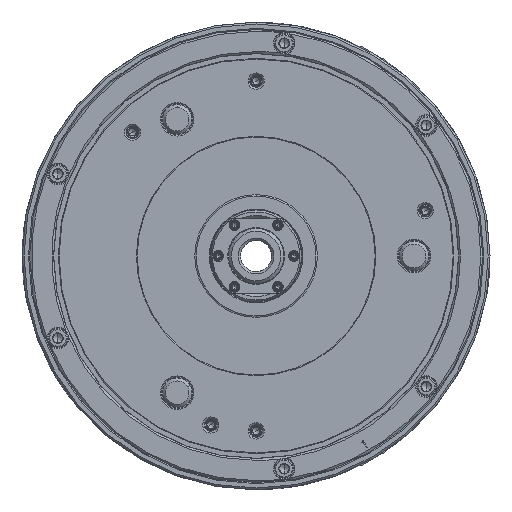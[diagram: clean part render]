
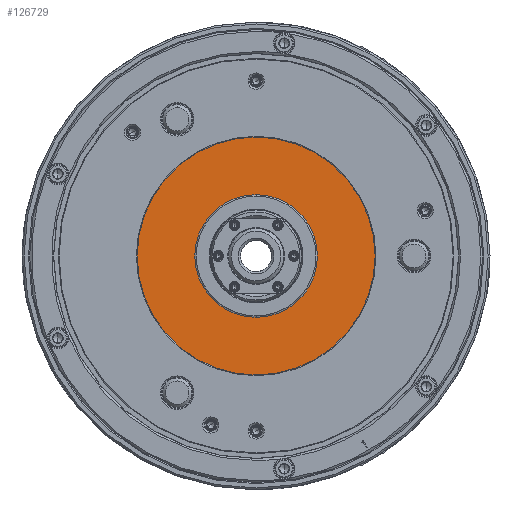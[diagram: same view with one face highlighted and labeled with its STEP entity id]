
A CAD part, left-side view. The second image highlights one B-rep face of the part: STEP entity #126729.
In plain terms, the highlighted planar face has unit normal (-1, 0, 0) as drawn and (0, 0, -1) by its records, which use the part's own axes.
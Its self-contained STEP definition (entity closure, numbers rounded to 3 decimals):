
#8173 = DIRECTION ( 'NONE',  ( -1., 0., 0. ) ) ;
#10971 = DIRECTION ( 'NONE',  ( -1., 0., 0. ) ) ;
#22127 = ORIENTED_EDGE ( 'NONE', *, *, #68673, .F. ) ;
#25872 = AXIS2_PLACEMENT_3D ( 'NONE', #60033, #61774, #8173 ) ;
#26658 = DIRECTION ( 'NONE',  ( -1., 0., 0. ) ) ;
#28311 = AXIS2_PLACEMENT_3D ( 'NONE', #92318, #160210, #37782 ) ;
#28469 = CARTESIAN_POINT ( 'NONE',  ( 33.3, 0., -126.8 ) ) ;
#29916 = DIRECTION ( 'NONE',  ( 0., 0., 1. ) ) ;
#32768 = EDGE_LOOP ( 'NONE', ( #55620, #22127 ) ) ;
#37782 = DIRECTION ( 'NONE',  ( -1., 0., 0. ) ) ;
#39419 = ORIENTED_EDGE ( 'NONE', *, *, #150131, .T. ) ;
#40672 = FACE_BOUND ( 'NONE', #32768, .T. ) ;
#44163 = CARTESIAN_POINT ( 'NONE',  ( 0., 0., -126.8 ) ) ;
#55620 = ORIENTED_EDGE ( 'NONE', *, *, #127254, .F. ) ;
#56888 = CIRCLE ( 'NONE', #28311, 64.616 ) ;
#60033 = CARTESIAN_POINT ( 'NONE',  ( 0., 0., -126.8 ) ) ;
#61774 = DIRECTION ( 'NONE',  ( 0., 0., -1. ) ) ;
#68673 = EDGE_CURVE ( 'NONE', #109251, #100138, #89733, .T. ) ;
#70954 = DIRECTION ( 'NONE',  ( 0., 0., -1. ) ) ;
#81726 = FACE_OUTER_BOUND ( 'NONE', #171268, .T. ) ;
#84798 = AXIS2_PLACEMENT_3D ( 'NONE', #162490, #94604, #26658 ) ;
#89733 = CIRCLE ( 'NONE', #132475, 33.3 ) ;
#90750 = CARTESIAN_POINT ( 'NONE',  ( 64.616, 0., -126.8 ) ) ;
#92318 = CARTESIAN_POINT ( 'NONE',  ( 0., 0., -126.8 ) ) ;
#94604 = DIRECTION ( 'NONE',  ( 0., 0., -1. ) ) ;
#97087 = EDGE_CURVE ( 'NONE', #138045, #155334, #56888, .T. ) ;
#97267 = CARTESIAN_POINT ( 'NONE',  ( -33.3, 0., -126.8 ) ) ;
#98752 = PLANE ( 'NONE',  #122840 ) ;
#100138 = VERTEX_POINT ( 'NONE', #97267 ) ;
#100163 = CIRCLE ( 'NONE', #25872, 33.3 ) ;
#100514 = DIRECTION ( 'NONE',  ( 0., 1., 0. ) ) ;
#108285 = ORIENTED_EDGE ( 'NONE', *, *, #97087, .T. ) ;
#109251 = VERTEX_POINT ( 'NONE', #28469 ) ;
#118687 = CARTESIAN_POINT ( 'NONE',  ( -64.616, 0., -126.8 ) ) ;
#122840 = AXIS2_PLACEMENT_3D ( 'NONE', #153217, #29916, #100514 ) ;
#126729 = ADVANCED_FACE ( 'NONE', ( #40672, #81726 ), #98752, .F. ) ;
#127254 = EDGE_CURVE ( 'NONE', #100138, #109251, #100163, .T. ) ;
#127680 = CIRCLE ( 'NONE', #84798, 64.616 ) ;
#132475 = AXIS2_PLACEMENT_3D ( 'NONE', #44163, #70954, #10971 ) ;
#138045 = VERTEX_POINT ( 'NONE', #90750 ) ;
#150131 = EDGE_CURVE ( 'NONE', #155334, #138045, #127680, .T. ) ;
#153217 = CARTESIAN_POINT ( 'NONE',  ( 0., -65., -126.8 ) ) ;
#155334 = VERTEX_POINT ( 'NONE', #118687 ) ;
#160210 = DIRECTION ( 'NONE',  ( 0., 0., -1. ) ) ;
#162490 = CARTESIAN_POINT ( 'NONE',  ( 0., 0., -126.8 ) ) ;
#171268 = EDGE_LOOP ( 'NONE', ( #39419, #108285 ) ) ;
